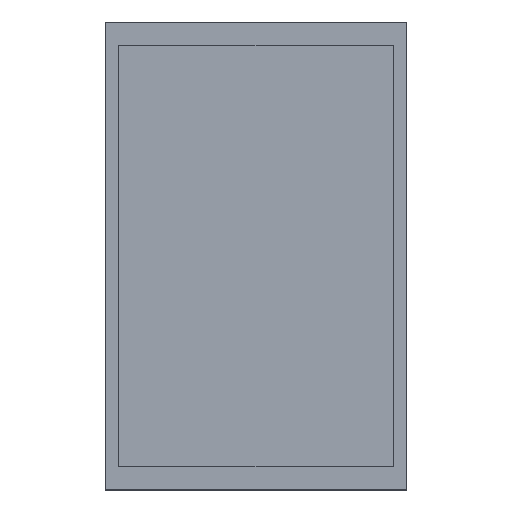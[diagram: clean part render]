
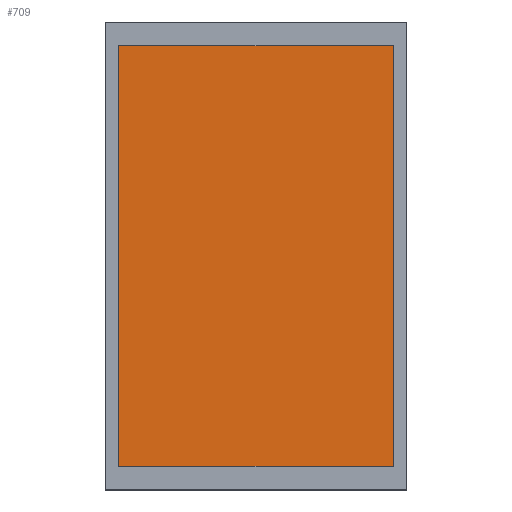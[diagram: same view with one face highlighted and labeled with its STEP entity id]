
A CAD part, top view. The second image highlights one B-rep face of the part: STEP entity #709.
In plain terms, the highlighted planar face has unit normal (0, 0, 1).
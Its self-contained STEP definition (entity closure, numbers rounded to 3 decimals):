
#395 = VERTEX_POINT('',#396);
#396 = CARTESIAN_POINT('',(-27.75,-42.5,3.8));
#403 = PLANE('',#404);
#404 = AXIS2_PLACEMENT_3D('',#405,#406,#407);
#405 = CARTESIAN_POINT('',(-27.75,-42.5,3.6));
#406 = DIRECTION('',(1.,0.,0.));
#407 = DIRECTION('',(0.,0.,1.));
#415 = PLANE('',#416);
#416 = AXIS2_PLACEMENT_3D('',#417,#418,#419);
#417 = CARTESIAN_POINT('',(-27.75,-42.5,3.6));
#418 = DIRECTION('',(0.,1.,0.));
#419 = DIRECTION('',(0.,0.,1.));
#456 = VERTEX_POINT('',#457);
#457 = CARTESIAN_POINT('',(-27.75,42.5,3.8));
#471 = PLANE('',#472);
#472 = AXIS2_PLACEMENT_3D('',#473,#474,#475);
#473 = CARTESIAN_POINT('',(-27.75,42.5,3.6));
#474 = DIRECTION('',(0.,1.,0.));
#475 = DIRECTION('',(0.,0.,1.));
#483 = EDGE_CURVE('',#395,#456,#484,.T.);
#484 = SURFACE_CURVE('',#485,(#489,#496),.PCURVE_S1.);
#485 = LINE('',#486,#487);
#486 = CARTESIAN_POINT('',(-27.75,-42.5,3.8));
#487 = VECTOR('',#488,1.);
#488 = DIRECTION('',(0.,1.,0.));
#489 = PCURVE('',#403,#490);
#490 = DEFINITIONAL_REPRESENTATION('',(#491),#495);
#491 = LINE('',#492,#493);
#492 = CARTESIAN_POINT('',(0.2,0.));
#493 = VECTOR('',#494,1.);
#494 = DIRECTION('',(0.,-1.));
#495 = ( GEOMETRIC_REPRESENTATION_CONTEXT(2) 
PARAMETRIC_REPRESENTATION_CONTEXT() REPRESENTATION_CONTEXT('2D SPACE',''
  ) );
#496 = PCURVE('',#497,#502);
#497 = PLANE('',#498);
#498 = AXIS2_PLACEMENT_3D('',#499,#500,#501);
#499 = CARTESIAN_POINT('',(-27.75,-42.5,3.8));
#500 = DIRECTION('',(0.,0.,1.));
#501 = DIRECTION('',(1.,0.,0.));
#502 = DEFINITIONAL_REPRESENTATION('',(#503),#507);
#503 = LINE('',#504,#505);
#504 = CARTESIAN_POINT('',(0.,0.));
#505 = VECTOR('',#506,1.);
#506 = DIRECTION('',(0.,1.));
#507 = ( GEOMETRIC_REPRESENTATION_CONTEXT(2) 
PARAMETRIC_REPRESENTATION_CONTEXT() REPRESENTATION_CONTEXT('2D SPACE',''
  ) );
#515 = VERTEX_POINT('',#516);
#516 = CARTESIAN_POINT('',(27.75,-42.5,3.8));
#523 = PLANE('',#524);
#524 = AXIS2_PLACEMENT_3D('',#525,#526,#527);
#525 = CARTESIAN_POINT('',(27.75,-42.5,3.6));
#526 = DIRECTION('',(1.,0.,0.));
#527 = DIRECTION('',(0.,0.,1.));
#566 = VERTEX_POINT('',#567);
#567 = CARTESIAN_POINT('',(27.75,42.5,3.8));
#588 = EDGE_CURVE('',#515,#566,#589,.T.);
#589 = SURFACE_CURVE('',#590,(#594,#601),.PCURVE_S1.);
#590 = LINE('',#591,#592);
#591 = CARTESIAN_POINT('',(27.75,-42.5,3.8));
#592 = VECTOR('',#593,1.);
#593 = DIRECTION('',(0.,1.,0.));
#594 = PCURVE('',#523,#595);
#595 = DEFINITIONAL_REPRESENTATION('',(#596),#600);
#596 = LINE('',#597,#598);
#597 = CARTESIAN_POINT('',(0.2,0.));
#598 = VECTOR('',#599,1.);
#599 = DIRECTION('',(0.,-1.));
#600 = ( GEOMETRIC_REPRESENTATION_CONTEXT(2) 
PARAMETRIC_REPRESENTATION_CONTEXT() REPRESENTATION_CONTEXT('2D SPACE',''
  ) );
#601 = PCURVE('',#497,#602);
#602 = DEFINITIONAL_REPRESENTATION('',(#603),#607);
#603 = LINE('',#604,#605);
#604 = CARTESIAN_POINT('',(55.5,0.));
#605 = VECTOR('',#606,1.);
#606 = DIRECTION('',(0.,1.));
#607 = ( GEOMETRIC_REPRESENTATION_CONTEXT(2) 
PARAMETRIC_REPRESENTATION_CONTEXT() REPRESENTATION_CONTEXT('2D SPACE',''
  ) );
#634 = EDGE_CURVE('',#395,#515,#635,.T.);
#635 = SURFACE_CURVE('',#636,(#640,#647),.PCURVE_S1.);
#636 = LINE('',#637,#638);
#637 = CARTESIAN_POINT('',(-27.75,-42.5,3.8));
#638 = VECTOR('',#639,1.);
#639 = DIRECTION('',(1.,0.,0.));
#640 = PCURVE('',#415,#641);
#641 = DEFINITIONAL_REPRESENTATION('',(#642),#646);
#642 = LINE('',#643,#644);
#643 = CARTESIAN_POINT('',(0.2,0.));
#644 = VECTOR('',#645,1.);
#645 = DIRECTION('',(0.,1.));
#646 = ( GEOMETRIC_REPRESENTATION_CONTEXT(2) 
PARAMETRIC_REPRESENTATION_CONTEXT() REPRESENTATION_CONTEXT('2D SPACE',''
  ) );
#647 = PCURVE('',#497,#648);
#648 = DEFINITIONAL_REPRESENTATION('',(#649),#653);
#649 = LINE('',#650,#651);
#650 = CARTESIAN_POINT('',(0.,0.));
#651 = VECTOR('',#652,1.);
#652 = DIRECTION('',(1.,0.));
#653 = ( GEOMETRIC_REPRESENTATION_CONTEXT(2) 
PARAMETRIC_REPRESENTATION_CONTEXT() REPRESENTATION_CONTEXT('2D SPACE',''
  ) );
#681 = EDGE_CURVE('',#456,#566,#682,.T.);
#682 = SURFACE_CURVE('',#683,(#687,#694),.PCURVE_S1.);
#683 = LINE('',#684,#685);
#684 = CARTESIAN_POINT('',(-27.75,42.5,3.8));
#685 = VECTOR('',#686,1.);
#686 = DIRECTION('',(1.,0.,0.));
#687 = PCURVE('',#471,#688);
#688 = DEFINITIONAL_REPRESENTATION('',(#689),#693);
#689 = LINE('',#690,#691);
#690 = CARTESIAN_POINT('',(0.2,0.));
#691 = VECTOR('',#692,1.);
#692 = DIRECTION('',(0.,1.));
#693 = ( GEOMETRIC_REPRESENTATION_CONTEXT(2) 
PARAMETRIC_REPRESENTATION_CONTEXT() REPRESENTATION_CONTEXT('2D SPACE',''
  ) );
#694 = PCURVE('',#497,#695);
#695 = DEFINITIONAL_REPRESENTATION('',(#696),#700);
#696 = LINE('',#697,#698);
#697 = CARTESIAN_POINT('',(0.,85.));
#698 = VECTOR('',#699,1.);
#699 = DIRECTION('',(1.,0.));
#700 = ( GEOMETRIC_REPRESENTATION_CONTEXT(2) 
PARAMETRIC_REPRESENTATION_CONTEXT() REPRESENTATION_CONTEXT('2D SPACE',''
  ) );
#709 = ADVANCED_FACE('',(#710),#497,.T.);
#710 = FACE_BOUND('',#711,.T.);
#711 = EDGE_LOOP('',(#712,#713,#714,#715));
#712 = ORIENTED_EDGE('',*,*,#483,.F.);
#713 = ORIENTED_EDGE('',*,*,#634,.T.);
#714 = ORIENTED_EDGE('',*,*,#588,.T.);
#715 = ORIENTED_EDGE('',*,*,#681,.F.);
